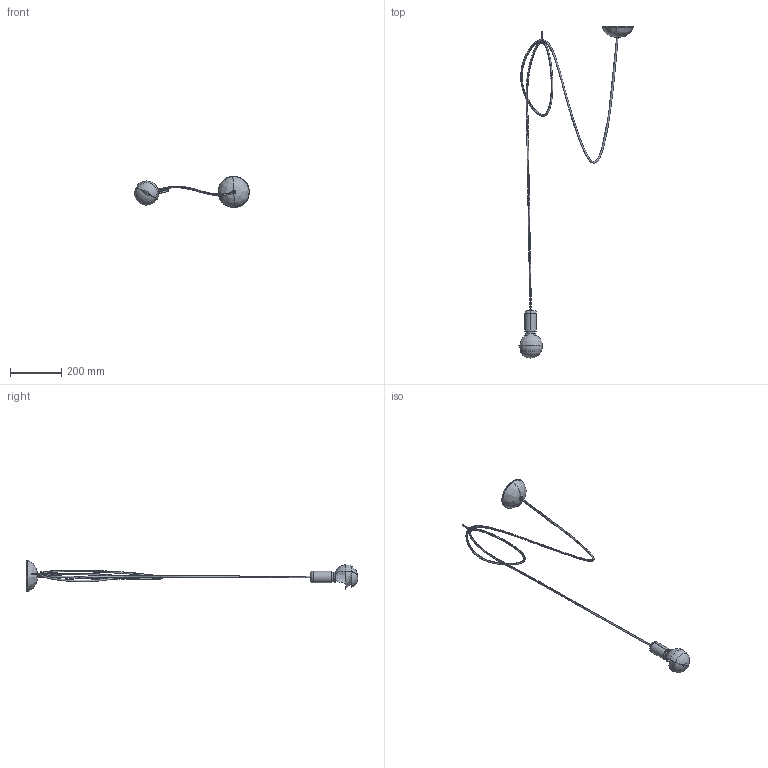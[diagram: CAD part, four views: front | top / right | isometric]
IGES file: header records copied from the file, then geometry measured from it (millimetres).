
Start section: SolidWorks IGES file using analytic representation for surfaces
Global section: file name: E:\3D lampy\Paj¹k\Spider 1.IGS; native system: SolidWorks 2016; preprocessor: SolidWorks 2016; author: Asia; date: 160713.111844; units: millimetre
Bounding box: 448.61 x 1298.55 x 121.97 mm (x, y, z)
Surface area: 169220.7 mm2 (no closed solid volume)
Topology: 0 solids, 0 shells, 82 faces, 1024 edges, 1023 vertices
Faces by surface type: revolution 42, bspline 40
